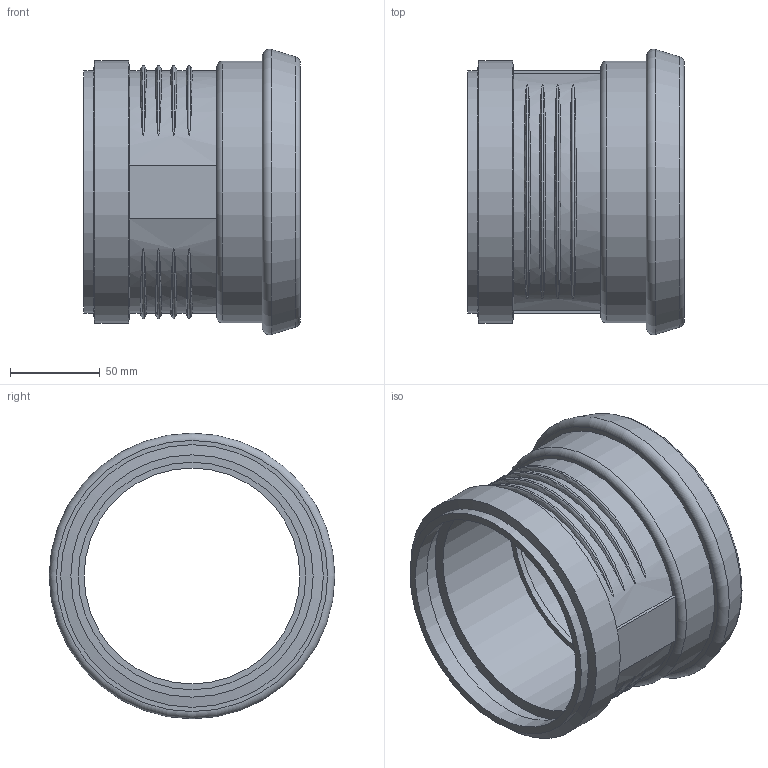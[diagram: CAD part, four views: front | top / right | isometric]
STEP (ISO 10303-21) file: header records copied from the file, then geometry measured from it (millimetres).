
FILE_DESCRIPTION(/* description */ (''),/* implementation_level */ '2;1');
FILE_NAME(/* name */ 'Z:\Geberit\Export\NewStep\390696.stp',/* time_stamp */ '2014-04-02T08:16:16+02:00',/* author */ ('Judith'),/* organization */ (''),/* preprocessor_version */ 'ST-DEVELOPER v15.2',/* originating_system */ 'Autodesk Inventor 2014',/* authorisation */ '');
FILE_SCHEMA (('AUTOMOTIVE_DESIGN { 1 0 10303 214 3 1 1 }'));
Length unit declared in the file: millimetre
Products named in the file (3): 861622; 861625; 390696
Bounding box: 120.4 x 158.7 x 158.7 mm (x, y, z)
Volume: 243000.9 mm3; surface area: 135766.6 mm2
Topology: 2 solids, 2 shells, 61 faces, 141 edges, 95 vertices
Faces by surface type: torus 29, plane 13, cylinder 11, cone 8
Full cylindrical faces by diameter (mm): 120 x1, 126.4 x2, 134.6 x1, 137.7 x1, 138.7 x2, 145.5 x1, 145.9 x1
Entity records: 2405 total; most frequent: CARTESIAN_POINT 1046, DIRECTION 242, ORIENTED_EDGE 236, EDGE_CURVE 118, AXIS2_PLACEMENT_3D 114, EDGE_LOOP 98, VERTEX_POINT 94, STYLED_ITEM 63
